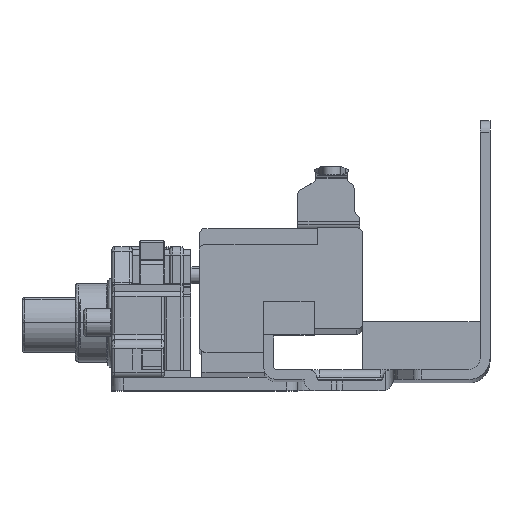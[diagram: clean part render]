
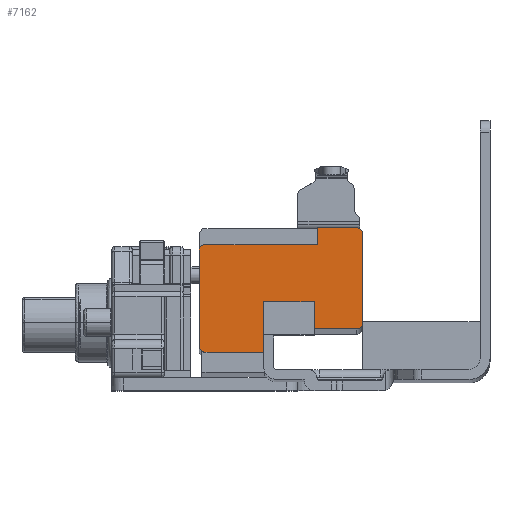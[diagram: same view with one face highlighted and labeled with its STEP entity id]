
A CAD part, top view. The second image highlights one B-rep face of the part: STEP entity #7162.
In plain terms, the highlighted planar face has unit normal (0, 0, 1).
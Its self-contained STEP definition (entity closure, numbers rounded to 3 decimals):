
#2 = VECTOR ( 'NONE', #17343, 1000. ) ;
#23 = CARTESIAN_POINT ( 'NONE',  ( -50.85, 1., -15.97 ) ) ;
#181 = CARTESIAN_POINT ( 'NONE',  ( -48.65, 4., -15.97 ) ) ;
#239 = CARTESIAN_POINT ( 'NONE',  ( -43.85, -13., -15.97 ) ) ;
#247 = DIRECTION ( 'NONE',  ( 0., 0., -1. ) ) ;
#352 = EDGE_CURVE ( 'NONE', #17047, #11806, #6479, .T. ) ;
#368 = CARTESIAN_POINT ( 'NONE',  ( -51.45, -9.185, -15.97 ) ) ;
#435 = VERTEX_POINT ( 'NONE', #12151 ) ;
#451 = DIRECTION ( 'NONE',  ( 0., -1., 0. ) ) ;
#461 = EDGE_CURVE ( 'NONE', #14124, #9071, #7578, .T. ) ;
#1279 = AXIS2_PLACEMENT_3D ( 'NONE', #8425, #2777, #12629 ) ;
#1444 = LINE ( 'NONE', #13137, #8521 ) ;
#1599 = DIRECTION ( 'NONE',  ( 1., 0., 0. ) ) ;
#1651 = DIRECTION ( 'NONE',  ( -1., 0., 0. ) ) ;
#1755 = LINE ( 'NONE', #13368, #12570 ) ;
#1881 = CARTESIAN_POINT ( 'NONE',  ( -60.45, -9.185, -15.97 ) ) ;
#2119 = ORIENTED_EDGE ( 'NONE', *, *, #10936, .F. ) ;
#2314 = CARTESIAN_POINT ( 'NONE',  ( -71.88, -17.1, -15.97 ) ) ;
#2360 = ORIENTED_EDGE ( 'NONE', *, *, #3704, .F. ) ;
#2513 = VECTOR ( 'NONE', #16167, 1000. ) ;
#2618 = EDGE_CURVE ( 'NONE', #16371, #4514, #8414, .T. ) ;
#2765 = VECTOR ( 'NONE', #7337, 1000. ) ;
#2777 = DIRECTION ( 'NONE',  ( 0., 0., 1. ) ) ;
#2878 = ORIENTED_EDGE ( 'NONE', *, *, #10879, .F. ) ;
#3127 = CARTESIAN_POINT ( 'NONE',  ( -60.45, 0., -15.97 ) ) ;
#3215 = CARTESIAN_POINT ( 'NONE',  ( -43.85, -14., -15.97 ) ) ;
#3444 = DIRECTION ( 'NONE',  ( 0., 0., -1. ) ) ;
#3704 = EDGE_CURVE ( 'NONE', #5561, #7445, #9613, .T. ) ;
#3794 = VECTOR ( 'NONE', #12209, 1000. ) ;
#3873 = CIRCLE ( 'NONE', #8770, 0.97 ) ;
#4514 = VERTEX_POINT ( 'NONE', #16399 ) ;
#4622 = DIRECTION ( 'NONE',  ( 0., 1., 0. ) ) ;
#4812 = CARTESIAN_POINT ( 'NONE',  ( -50.85, 4., -15.97 ) ) ;
#5413 = VERTEX_POINT ( 'NONE', #17857 ) ;
#5524 = ORIENTED_EDGE ( 'NONE', *, *, #7352, .T. ) ;
#5561 = VERTEX_POINT ( 'NONE', #3215 ) ;
#5577 = AXIS2_PLACEMENT_3D ( 'NONE', #11897, #3444, #13306 ) ;
#5951 = LINE ( 'NONE', #10462, #9749 ) ;
#5968 = CARTESIAN_POINT ( 'NONE',  ( -42.85, 3., -15.97 ) ) ;
#6009 = EDGE_CURVE ( 'NONE', #16371, #12340, #1755, .T. ) ;
#6123 = LINE ( 'NONE', #181, #13164 ) ;
#6338 = DIRECTION ( 'NONE',  ( 0., 0., -1. ) ) ;
#6479 = LINE ( 'NONE', #13422, #16320 ) ;
#6946 = ORIENTED_EDGE ( 'NONE', *, *, #9565, .F. ) ;
#6975 = LINE ( 'NONE', #3127, #2765 ) ;
#7162 = ADVANCED_FACE ( 'NONE', ( #12347 ), #9839, .T. ) ;
#7337 = DIRECTION ( 'NONE',  ( 0., -1., 0. ) ) ;
#7352 = EDGE_CURVE ( 'NONE', #435, #9455, #5951, .T. ) ;
#7445 = VERTEX_POINT ( 'NONE', #13522 ) ;
#7533 = VERTEX_POINT ( 'NONE', #12297 ) ;
#7578 = LINE ( 'NONE', #12464, #3794 ) ;
#7820 = ORIENTED_EDGE ( 'NONE', *, *, #2618, .T. ) ;
#7852 = EDGE_LOOP ( 'NONE', ( #12688, #8567, #5524, #2119, #13619, #11282, #2360, #2878, #6946, #10719, #10251, #17839, #7820, #11372 ) ) ;
#8414 = LINE ( 'NONE', #17455, #2 ) ;
#8425 = CARTESIAN_POINT ( 'NONE',  ( -40.3, 0., -15.97 ) ) ;
#8521 = VECTOR ( 'NONE', #4622, 1000. ) ;
#8567 = ORIENTED_EDGE ( 'NONE', *, *, #14301, .F. ) ;
#8733 = CARTESIAN_POINT ( 'NONE',  ( -70.91, 0.03, -15.97 ) ) ;
#8770 = AXIS2_PLACEMENT_3D ( 'NONE', #8733, #247, #10127 ) ;
#9071 = VERTEX_POINT ( 'NONE', #2314 ) ;
#9455 = VERTEX_POINT ( 'NONE', #10099 ) ;
#9565 = EDGE_CURVE ( 'NONE', #10095, #5413, #17052, .T. ) ;
#9613 = LINE ( 'NONE', #17714, #2513 ) ;
#9749 = VECTOR ( 'NONE', #10410, 1000. ) ;
#9839 = PLANE ( 'NONE',  #1279 ) ;
#10016 = EDGE_CURVE ( 'NONE', #14124, #4514, #3873, .T. ) ;
#10095 = VERTEX_POINT ( 'NONE', #5968 ) ;
#10099 = CARTESIAN_POINT ( 'NONE',  ( -60.45, -18.1, -15.97 ) ) ;
#10121 = DIRECTION ( 'NONE',  ( 0., 0., -1. ) ) ;
#10127 = DIRECTION ( 'NONE',  ( -1., 0., 0. ) ) ;
#10251 = ORIENTED_EDGE ( 'NONE', *, *, #17943, .F. ) ;
#10293 = AXIS2_PLACEMENT_3D ( 'NONE', #14756, #6338, #16130 ) ;
#10410 = DIRECTION ( 'NONE',  ( 1., 0., 0. ) ) ;
#10462 = CARTESIAN_POINT ( 'NONE',  ( -40.3, -18.1, -15.97 ) ) ;
#10719 = ORIENTED_EDGE ( 'NONE', *, *, #16121, .F. ) ;
#10879 = EDGE_CURVE ( 'NONE', #5413, #5561, #18094, .T. ) ;
#10936 = EDGE_CURVE ( 'NONE', #17047, #9455, #6975, .T. ) ;
#11116 = AXIS2_PLACEMENT_3D ( 'NONE', #239, #10121, #1651 ) ;
#11282 = ORIENTED_EDGE ( 'NONE', *, *, #11554, .F. ) ;
#11372 = ORIENTED_EDGE ( 'NONE', *, *, #10016, .F. ) ;
#11554 = EDGE_CURVE ( 'NONE', #7445, #11806, #1444, .T. ) ;
#11806 = VERTEX_POINT ( 'NONE', #368 ) ;
#11897 = CARTESIAN_POINT ( 'NONE',  ( -43.85, 3., -15.97 ) ) ;
#12151 = CARTESIAN_POINT ( 'NONE',  ( -70.88, -18.1, -15.97 ) ) ;
#12209 = DIRECTION ( 'NONE',  ( 0., -1., 0. ) ) ;
#12297 = CARTESIAN_POINT ( 'NONE',  ( -43.85, 4., -15.97 ) ) ;
#12340 = VERTEX_POINT ( 'NONE', #4812 ) ;
#12347 = FACE_OUTER_BOUND ( 'NONE', #7852, .T. ) ;
#12464 = CARTESIAN_POINT ( 'NONE',  ( -71.88, 0., -15.97 ) ) ;
#12570 = VECTOR ( 'NONE', #16156, 1000. ) ;
#12629 = DIRECTION ( 'NONE',  ( -1., 0., 0. ) ) ;
#12688 = ORIENTED_EDGE ( 'NONE', *, *, #461, .T. ) ;
#13137 = CARTESIAN_POINT ( 'NONE',  ( -51.45, 0., -15.97 ) ) ;
#13164 = VECTOR ( 'NONE', #1599, 1000. ) ;
#13306 = DIRECTION ( 'NONE',  ( -1., 0., 0. ) ) ;
#13349 = DIRECTION ( 'NONE',  ( 1., 0., 0. ) ) ;
#13368 = CARTESIAN_POINT ( 'NONE',  ( -50.85, 0., -15.97 ) ) ;
#13422 = CARTESIAN_POINT ( 'NONE',  ( -58.68, -9.185, -15.97 ) ) ;
#13522 = CARTESIAN_POINT ( 'NONE',  ( -51.45, -14., -15.97 ) ) ;
#13619 = ORIENTED_EDGE ( 'NONE', *, *, #352, .T. ) ;
#14124 = VERTEX_POINT ( 'NONE', #16940 ) ;
#14301 = EDGE_CURVE ( 'NONE', #435, #9071, #17790, .T. ) ;
#14477 = CARTESIAN_POINT ( 'NONE',  ( -42.85, 0., -15.97 ) ) ;
#14756 = CARTESIAN_POINT ( 'NONE',  ( -70.88, -17.1, -15.97 ) ) ;
#15598 = CIRCLE ( 'NONE', #5577, 1. ) ;
#16121 = EDGE_CURVE ( 'NONE', #7533, #10095, #15598, .T. ) ;
#16130 = DIRECTION ( 'NONE',  ( -1., 0., 0. ) ) ;
#16156 = DIRECTION ( 'NONE',  ( 0., 1., 0. ) ) ;
#16167 = DIRECTION ( 'NONE',  ( -1., 0., 0. ) ) ;
#16320 = VECTOR ( 'NONE', #13349, 1000. ) ;
#16371 = VERTEX_POINT ( 'NONE', #23 ) ;
#16399 = CARTESIAN_POINT ( 'NONE',  ( -70.91, 1., -15.97 ) ) ;
#16629 = VECTOR ( 'NONE', #451, 1000. ) ;
#16940 = CARTESIAN_POINT ( 'NONE',  ( -71.88, 0.03, -15.97 ) ) ;
#17047 = VERTEX_POINT ( 'NONE', #1881 ) ;
#17052 = LINE ( 'NONE', #14477, #16629 ) ;
#17343 = DIRECTION ( 'NONE',  ( -1., 0., 0. ) ) ;
#17455 = CARTESIAN_POINT ( 'NONE',  ( -40.3, 1., -15.97 ) ) ;
#17714 = CARTESIAN_POINT ( 'NONE',  ( -40.3, -14., -15.97 ) ) ;
#17790 = CIRCLE ( 'NONE', #10293, 1. ) ;
#17839 = ORIENTED_EDGE ( 'NONE', *, *, #6009, .F. ) ;
#17857 = CARTESIAN_POINT ( 'NONE',  ( -42.85, -13., -15.97 ) ) ;
#17943 = EDGE_CURVE ( 'NONE', #12340, #7533, #6123, .T. ) ;
#18094 = CIRCLE ( 'NONE', #11116, 1. ) ;
